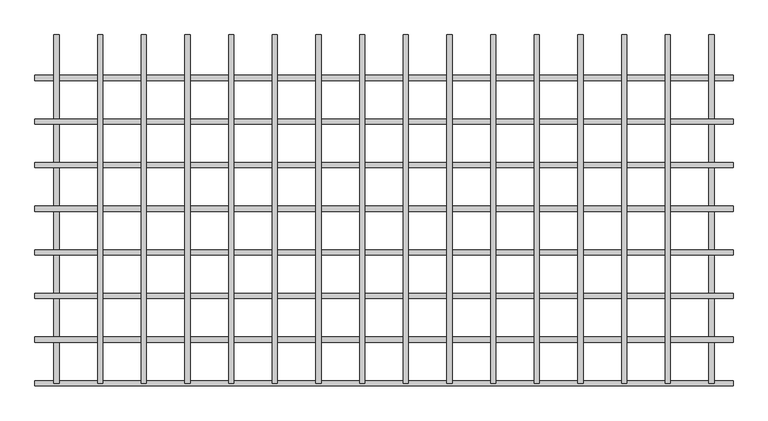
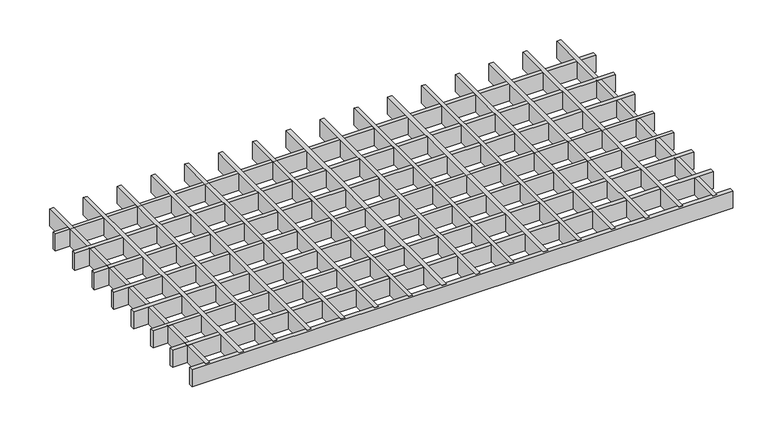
"""IFC4 building model written with IfcOpenShell, lengths in millimetres: proxy geometry, durlum_GEO_panel : durlum_GEO_9."""

from ifc_helpers import new_model, si_unit, origin, origin_with_axes, place, context, project, spatial, polyline, outline, extrude, source, transform, mapped, element, save


def generic_models_1b98d296(model_context):
    return source(origin(), model_context, "Body", "SweptSolid", [
        extrude(outline(polyline([(483.0, 299.5), (492.0, 299.5), (492.0, -299.5), (483.0, -299.5), (483.0, 299.5)])), origin_with_axes(), (0.0, 0.0, 1.0), 40.0),
        extrude(outline(polyline([(408.0, 299.5), (417.0, 299.5), (417.0, -299.5), (408.0, -299.5), (408.0, 299.5)])), origin_with_axes(), (0.0, 0.0, 1.0), 40.0),
        extrude(outline(polyline([(333.0, 299.5), (342.0, 299.5), (342.0, -299.5), (333.0, -299.5), (333.0, 299.5)])), origin_with_axes(), (0.0, 0.0, 1.0), 40.0),
        extrude(outline(polyline([(258.0, 299.5), (267.0, 299.5), (267.0, -299.5), (258.0, -299.5), (258.0, 299.5)])), origin_with_axes(), (0.0, 0.0, 1.0), 40.0),
        extrude(outline(polyline([(183.0, 299.5), (192.0, 299.5), (192.0, -299.5), (183.0, -299.5), (183.0, 299.5)])), origin_with_axes(), (0.0, 0.0, 1.0), 40.0),
        extrude(outline(polyline([(108.0, 299.5), (117.0, 299.5), (117.0, -299.5), (108.0, -299.5), (108.0, 299.5)])), origin_with_axes(), (0.0, 0.0, 1.0), 40.0),
        extrude(outline(polyline([(33.0, 299.5), (42.0, 299.5), (42.0, -299.5), (33.0, -299.5), (33.0, 299.5)])), origin_with_axes(), (0.0, 0.0, 1.0), 40.0),
        extrude(outline(polyline([(-42.0, 299.5), (-33.0, 299.5), (-33.0, -299.5), (-42.0, -299.5), (-42.0, 299.5)])), origin_with_axes(), (0.0, 0.0, 1.0), 40.0),
        extrude(outline(polyline([(-117.0, 299.5), (-108.0, 299.5), (-108.0, -299.5), (-117.0, -299.5), (-117.0, 299.5)])), origin_with_axes(), (0.0, 0.0, 1.0), 40.0),
        extrude(outline(polyline([(-192.0, 299.5), (-183.0, 299.5), (-183.0, -299.5), (-192.0, -299.5), (-192.0, 299.5)])), origin_with_axes(), (0.0, 0.0, 1.0), 40.0),
        extrude(outline(polyline([(-267.0, 299.5), (-258.0, 299.5), (-258.0, -299.5), (-267.0, -299.5), (-267.0, 299.5)])), origin_with_axes(), (0.0, 0.0, 1.0), 40.0),
        extrude(outline(polyline([(-342.0, 299.5), (-333.0, 299.5), (-333.0, -299.5), (-342.0, -299.5), (-342.0, 299.5)])), origin_with_axes(), (0.0, 0.0, 1.0), 40.0),
        extrude(outline(polyline([(-417.0, 299.5), (-408.0, 299.5), (-408.0, -299.5), (-417.0, -299.5), (-417.0, 299.5)])), origin_with_axes(), (0.0, 0.0, 1.0), 40.0),
        extrude(outline(polyline([(-492.0, 299.5), (-483.0, 299.5), (-483.0, -299.5), (-492.0, -299.5), (-492.0, 299.5)])), origin_with_axes(), (0.0, 0.0, 1.0), 40.0),
        extrude(outline(polyline([(599.5, -220.0), (599.5, -229.0), (-599.5, -229.0), (-599.5, -220.0), (599.5, -220.0)])), origin_with_axes(), (0.0, 0.0, 1.0), 40.0),
        extrude(outline(polyline([(599.5, -145.0), (599.5, -154.0), (-599.5, -154.0), (-599.5, -145.0), (599.5, -145.0)])), origin_with_axes(), (0.0, 0.0, 1.0), 40.0),
        extrude(outline(polyline([(599.5, -70.0), (599.5, -79.0), (-599.5, -79.0), (-599.5, -70.0), (599.5, -70.0)])), origin_with_axes(), (0.0, 0.0, 1.0), 40.0),
        extrude(outline(polyline([(599.5, 5.0), (599.5, -4.0), (-599.5, -4.0), (-599.5, 5.0), (599.5, 5.0)])), origin_with_axes(), (0.0, 0.0, 1.0), 40.0),
        extrude(outline(polyline([(599.5, 80.0), (599.5, 71.0), (-599.5, 71.0), (-599.5, 80.0), (599.5, 80.0)])), origin_with_axes(), (0.0, 0.0, 1.0), 40.0),
        extrude(outline(polyline([(599.5, 155.0), (599.5, 146.0), (-599.5, 146.0), (-599.5, 155.0), (599.5, 155.0)])), origin_with_axes(), (0.0, 0.0, 1.0), 40.0),
        extrude(outline(polyline([(558.0, 299.5), (567.0, 299.5), (567.0, -299.5), (558.0, -299.5), (558.0, 299.5)])), origin_with_axes(), (0.0, 0.0, 1.0), 40.0),
        extrude(outline(polyline([(-567.0, 299.5), (-558.0, 299.5), (-558.0, -299.5), (-567.0, -299.5), (-567.0, 299.5)])), origin_with_axes(), (0.0, 0.0, 1.0), 40.0),
        extrude(outline(polyline([(599.5, -295.0), (599.5, -304.0), (-599.5, -304.0), (-599.5, -295.0), (599.5, -295.0)])), origin_with_axes(), (0.0, 0.0, 1.0), 40.0),
        extrude(outline(polyline([(599.5, 230.0), (599.5, 221.0), (-599.5, 221.0), (-599.5, 230.0), (599.5, 230.0)])), origin_with_axes(), (0.0, 0.0, 1.0), 40.0),
    ])


if __name__ == "__main__":
    model = new_model("IFC4")
    model_context = context("Model", 3, world=origin())
    ifc_project = project(units=[si_unit("LENGTHUNIT", "METRE", prefix="MILLI")], contexts=[model_context])
    site = spatial("IfcSite", under=ifc_project)
    building = spatial("IfcBuilding", under=site)
    placement = place(None, origin())
    generic_models_shape = generic_models_1b98d296(model_context)
    element("IfcBuildingElementProxy", 1, Name="durlum_GEO_panel : durlum_GEO_9", ObjectType="durlum_GEO_panel : durlum_GEO_9", at=placement, inside=building, context=model_context, shape_type="MappedRepresentation", body=[
        mapped(generic_models_shape, transform((0.0, 0.0, 0.0), x_axis=(1.0, 0.0, 0.0), y_axis=(0.0, 1.0, 0.0), z_axis=(0.0, 0.0, 1.0))),
    ])
    save(model, "model.ifc")
